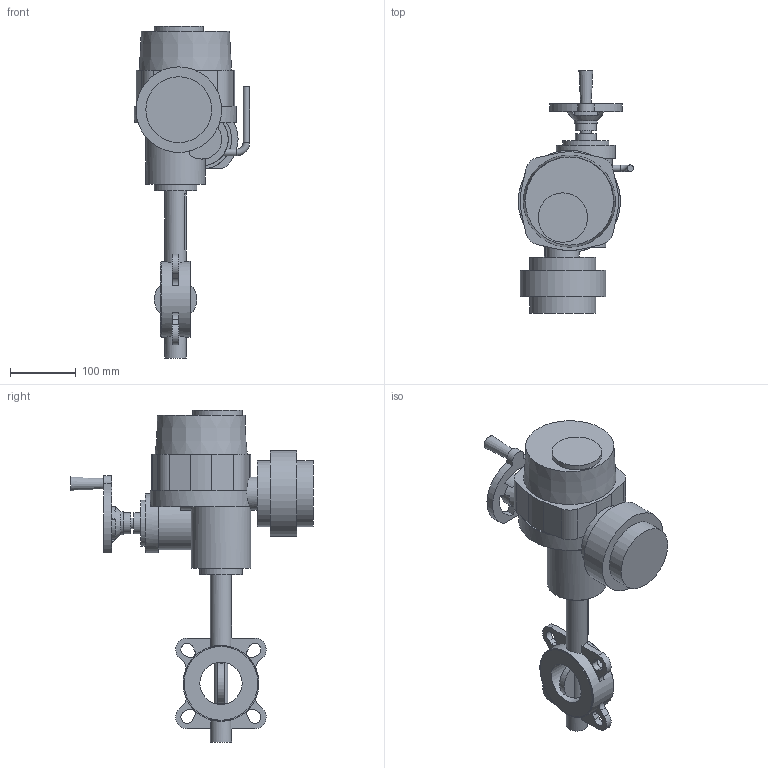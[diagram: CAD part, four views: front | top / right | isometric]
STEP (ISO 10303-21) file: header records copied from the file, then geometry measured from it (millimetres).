
FILE_DESCRIPTION(('STEP AP203'), '1');
FILE_NAME('Çàòâîð 017W.Z(÷óãóí) DN65+ÝÏ QT.A005', '', ('UNSPECIFIED'), ('UNSPECIFIED'), 'ASCON STEP Converter 1.6', 'ASCON Math Kernel', '');
FILE_SCHEMA(('CONFIG_CONTROL_DESIGN'));
Length unit declared in the file: millimetre
Bounding box: 175 x 368 x 504 mm (x, y, z)
Volume: 4556484.4 mm3; surface area: 331971.4 mm2
Topology: 1 solids, 2 shells, 732 faces, 2093 edges, 1347 vertices
Faces by surface type: cylinder 490, plane 238, cone 3, torus 1
Full cylindrical faces by diameter (mm): 6.7 x8, 8 x4, 10 x2, 12.6 x1, 16 x1, 20 x1, 21 x1, 32 x4, 35 x2, 50 x1, 64.3 x1, 65 x1, 70 x1, 75 x1, 90 x2, 100 x2, 112 x2, 115 x1, 130 x1
Entity records: 31280 total; most frequent: CARTESIAN_POINT 5420, DIRECTION 4550, ORIENTED_EDGE 4043, EDGE_CURVE 2053, AXIS2_PLACEMENT_3D 1792, VERTEX_POINT 1347, CIRCLE 1059, LINE 966
